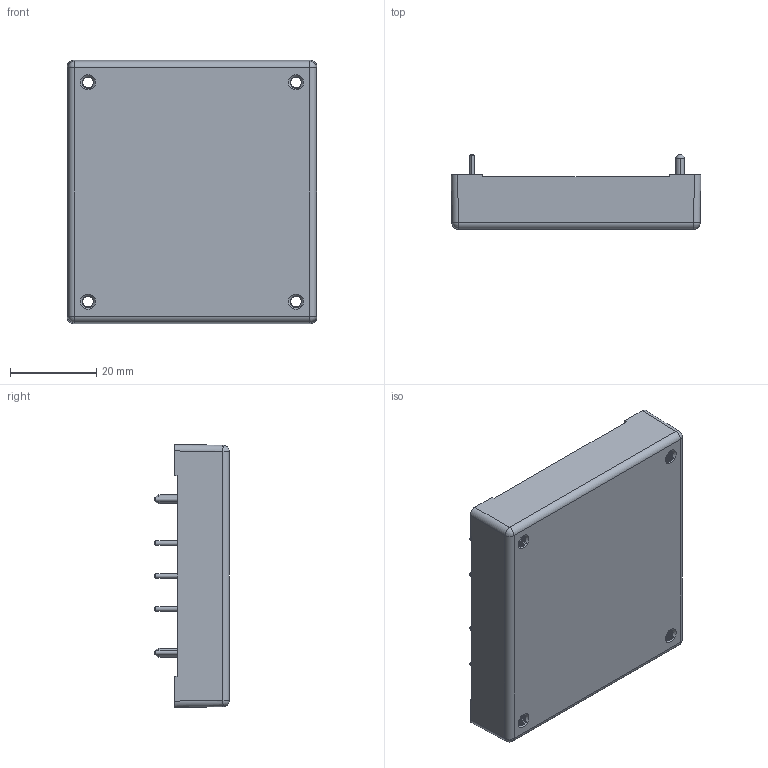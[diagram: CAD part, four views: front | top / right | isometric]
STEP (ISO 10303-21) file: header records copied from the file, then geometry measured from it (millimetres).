
FILE_DESCRIPTION (( 'STEP AP214' ), '1' );
FILE_NAME ('CHB50.STEP', '2018-01-03T08:56:43', ( 'cincon' ), ( '' ), 'SwSTEP 2.0', 'SolidWorks 2008', '' );
FILE_SCHEMA (( 'AUTOMOTIVE_DESIGN' ));
Length unit declared in the file: millimetre
Products named in the file (3): CHB50內組件示意圖-1040826; CHB50; CHB50(G5122441513)990813
Assembly tree (2 placements, depth 2):
  CHB50
    CHB50內組件示意圖-1040826
    CHB50(G5122441513)990813
Bounding box: 57.9 x 17.3 x 61 mm (x, y, z)
Volume: 42459.5 mm3; surface area: 21250.5 mm2
Topology: 2 solids, 2 shells, 353 faces, 992 edges, 642 vertices
Faces by surface type: cylinder 238, plane 59, cone 42, bspline 8, sphere 6
Entity records: 20434 total; most frequent: CARTESIAN_POINT 12578, ORIENTED_EDGE 1948, DIRECTION 1332, EDGE_CURVE 974, VERTEX_POINT 638, AXIS2_PLACEMENT_3D 456, VECTOR 420, LINE 420
